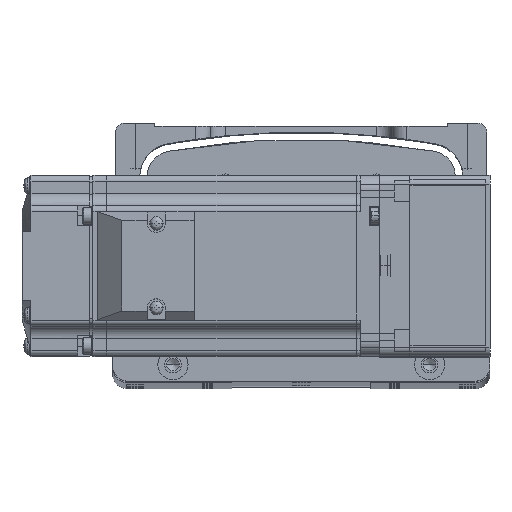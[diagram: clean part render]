
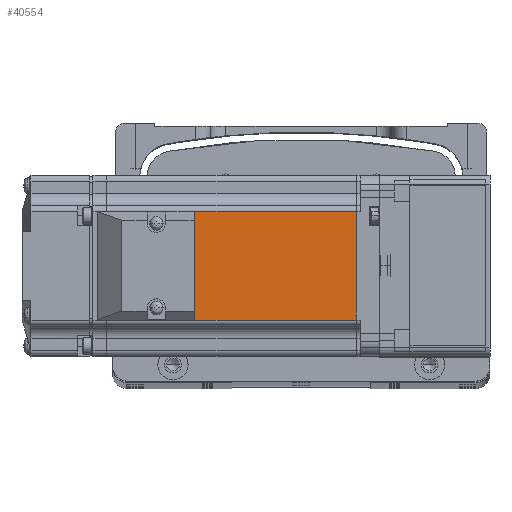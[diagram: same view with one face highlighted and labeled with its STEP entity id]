
A CAD part, top view. The second image highlights one B-rep face of the part: STEP entity #40554.
In plain terms, the highlighted planar face has unit normal (0, 0, 1) as drawn and (0, 1, 0) by its records, which use the part's own axes.
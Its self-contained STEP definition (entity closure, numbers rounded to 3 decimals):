
#2746 = CARTESIAN_POINT ( 'NONE',  ( -90.45, 30., 0. ) ) ;
#3048 = EDGE_CURVE ( 'NONE', #13486, #6474, #33541, .T. ) ;
#4825 = ORIENTED_EDGE ( 'NONE', *, *, #51960, .F. ) ;
#5004 = CARTESIAN_POINT ( 'NONE',  ( -6.5, 30., 18. ) ) ;
#6474 = VERTEX_POINT ( 'NONE', #82983 ) ;
#12763 = DIRECTION ( 'NONE',  ( 1., 0., 0. ) ) ;
#13293 = CARTESIAN_POINT ( 'NONE',  ( -6.5, 30., -18. ) ) ;
#13486 = VERTEX_POINT ( 'NONE', #16364 ) ;
#13511 = CARTESIAN_POINT ( 'NONE',  ( -7.75, 30., 18. ) ) ;
#13678 = VECTOR ( 'NONE', #72368, 1000. ) ;
#13985 = CARTESIAN_POINT ( 'NONE',  ( -6.5, 30., 25. ) ) ;
#16364 = CARTESIAN_POINT ( 'NONE',  ( -90.45, 30., -18. ) ) ;
#16910 = CARTESIAN_POINT ( 'NONE',  ( -7.75, 30., -18. ) ) ;
#19602 = ORIENTED_EDGE ( 'NONE', *, *, #3048, .T. ) ;
#20367 = FACE_OUTER_BOUND ( 'NONE', #77523, .T. ) ;
#20586 = DIRECTION ( 'NONE',  ( 0., 0., 1. ) ) ;
#33541 = LINE ( 'NONE', #2746, #68480 ) ;
#34607 = VERTEX_POINT ( 'NONE', #13511 ) ;
#40554 = ADVANCED_FACE ( 'NONE', ( #20367 ), #46425, .T. ) ;
#41947 = LINE ( 'NONE', #79895, #59366 ) ;
#42616 = ORIENTED_EDGE ( 'NONE', *, *, #84069, .T. ) ;
#46425 = PLANE ( 'NONE',  #46912 ) ;
#46912 = AXIS2_PLACEMENT_3D ( 'NONE', #13985, #59863, #20586 ) ;
#48621 = DIRECTION ( 'NONE',  ( 0., 0., 1. ) ) ;
#51960 = EDGE_CURVE ( 'NONE', #52740, #34607, #41947, .T. ) ;
#52740 = VERTEX_POINT ( 'NONE', #16910 ) ;
#54977 = LINE ( 'NONE', #5004, #70425 ) ;
#59366 = VECTOR ( 'NONE', #66459, 1000. ) ;
#59863 = DIRECTION ( 'NONE',  ( 0., 1., 0. ) ) ;
#66459 = DIRECTION ( 'NONE',  ( 0., 0., 1. ) ) ;
#68480 = VECTOR ( 'NONE', #48621, 1000. ) ;
#70425 = VECTOR ( 'NONE', #12763, 1000. ) ;
#72368 = DIRECTION ( 'NONE',  ( -1., 0., 0. ) ) ;
#74268 = ORIENTED_EDGE ( 'NONE', *, *, #74534, .T. ) ;
#74534 = EDGE_CURVE ( 'NONE', #52740, #13486, #83508, .T. ) ;
#77523 = EDGE_LOOP ( 'NONE', ( #4825, #74268, #19602, #42616 ) ) ;
#79895 = CARTESIAN_POINT ( 'NONE',  ( -7.75, 30., 0. ) ) ;
#82983 = CARTESIAN_POINT ( 'NONE',  ( -90.45, 30., 18. ) ) ;
#83508 = LINE ( 'NONE', #13293, #13678 ) ;
#84069 = EDGE_CURVE ( 'NONE', #6474, #34607, #54977, .T. ) ;
